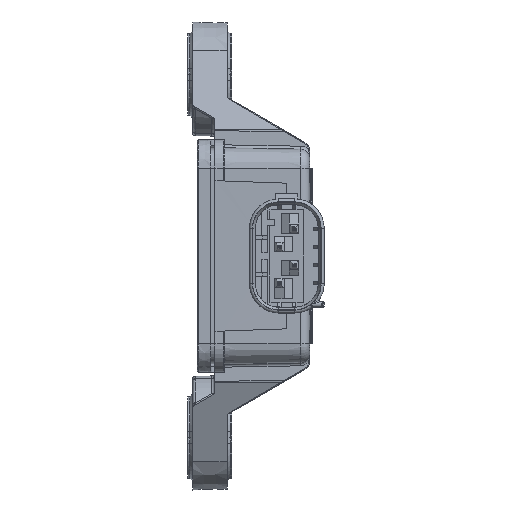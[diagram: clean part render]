
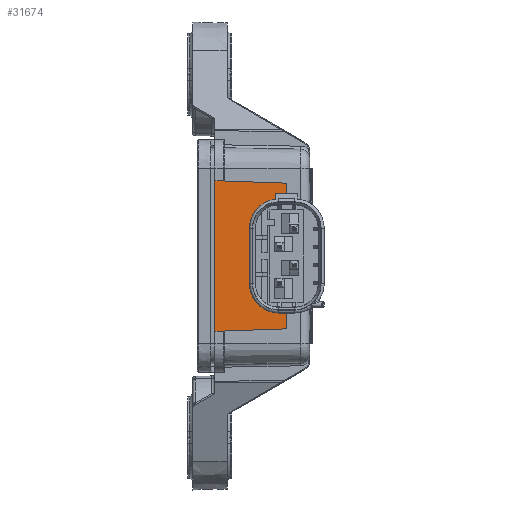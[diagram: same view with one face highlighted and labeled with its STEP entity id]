
A CAD part, left-side view. The second image highlights one B-rep face of the part: STEP entity #31674.
In plain terms, the highlighted planar face has unit normal (-1, 0, 0).
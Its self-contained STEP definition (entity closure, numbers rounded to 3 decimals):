
#692=DIRECTION('',(0.,0.,1.));
#693=VECTOR('',#692,25.759);
#694=CARTESIAN_POINT('',(-18.6,0.3,-12.88));
#695=LINE('',#694,#693);
#6580=DIRECTION('',(-0.002,0.999,0.035));
#6581=VECTOR('',#6580,10.804);
#6582=CARTESIAN_POINT('',(-18.6,-12.,12.45));
#6583=LINE('',#6582,#6581);
#6584=DIRECTION('',(0.,0.,1.));
#6585=VECTOR('',#6584,2.7);
#6586=CARTESIAN_POINT('',(-18.6,-12.,9.75));
#6587=LINE('',#6586,#6585);
#6588=DIRECTION('',(0.,0.,1.));
#6589=VECTOR('',#6588,2.7);
#6590=CARTESIAN_POINT('',(-18.6,-12.,-12.45));
#6591=LINE('',#6590,#6589);
#6592=DIRECTION('',(0.002,-0.999,0.035));
#6593=VECTOR('',#6592,10.804);
#6594=CARTESIAN_POINT('',(-18.619,-1.202,-12.827));
#6595=LINE('',#6594,#6593);
#6596=DIRECTION('',(-0.013,-0.999,0.035));
#6597=VECTOR('',#6596,1.503);
#6598=CARTESIAN_POINT('',(-18.6,0.3,-12.88));
#6599=LINE('',#6598,#6597);
#6600=DIRECTION('',(0.013,0.999,0.035));
#6601=VECTOR('',#6600,1.503);
#6602=CARTESIAN_POINT('',(-18.619,-1.202,12.827));
#6603=LINE('',#6602,#6601);
#15880=DIRECTION('',(0.,-1.,0.));
#15881=VECTOR('',#15880,1.375);
#15882=CARTESIAN_POINT('',(-18.6,-10.625,-9.75));
#15883=LINE('',#15882,#15881);
#15888=CARTESIAN_POINT('',(-18.6,-10.625,-4.75));
#15889=DIRECTION('',(1.,0.,0.));
#15890=DIRECTION('',(0.,0.,-1.));
#15891=AXIS2_PLACEMENT_3D('',#15888,#15889,#15890);
#15902=DIRECTION('',(0.,0.,1.));
#15903=VECTOR('',#15902,9.5);
#15904=CARTESIAN_POINT('',(-18.6,-5.625,-4.75));
#15905=LINE('',#15904,#15903);
#15914=CARTESIAN_POINT('',(-18.6,-10.625,4.75));
#15915=DIRECTION('',(1.,0.,0.));
#15916=DIRECTION('',(0.,1.,0.));
#15917=AXIS2_PLACEMENT_3D('',#15914,#15915,#15916);
#15969=DIRECTION('',(0.,-1.,0.));
#15970=VECTOR('',#15969,1.375);
#15971=CARTESIAN_POINT('',(-18.6,-10.625,9.75));
#15972=LINE('',#15971,#15970);
#22230=CARTESIAN_POINT('',(-18.6,0.3,-12.88));
#22231=CARTESIAN_POINT('',(-18.6,0.3,12.88));
#22232=VERTEX_POINT('',#22230);
#22233=VERTEX_POINT('',#22231);
#22242=CARTESIAN_POINT('',(-18.619,-1.202,12.827));
#22243=VERTEX_POINT('',#22242);
#22244=CARTESIAN_POINT('',(-18.619,-1.202,-12.827));
#22245=VERTEX_POINT('',#22244);
#24720=CARTESIAN_POINT('',(-18.6,-10.625,-9.75));
#24721=CARTESIAN_POINT('',(-18.6,-12.,-9.75));
#24722=VERTEX_POINT('',#24720);
#24723=VERTEX_POINT('',#24721);
#24724=CARTESIAN_POINT('',(-18.6,-5.625,-4.75));
#24725=VERTEX_POINT('',#24724);
#24726=CARTESIAN_POINT('',(-18.6,-5.625,4.75));
#24727=VERTEX_POINT('',#24726);
#24728=CARTESIAN_POINT('',(-18.6,-10.625,9.75));
#24729=VERTEX_POINT('',#24728);
#24730=CARTESIAN_POINT('',(-18.6,-12.,9.75));
#24731=VERTEX_POINT('',#24730);
#25111=CARTESIAN_POINT('',(-18.6,-12.,12.45));
#25112=VERTEX_POINT('',#25111);
#25113=CARTESIAN_POINT('',(-18.6,-12.,-12.45));
#25114=VERTEX_POINT('',#25113);
#31644=CARTESIAN_POINT('',(-18.6,0.,0.));
#31645=DIRECTION('',(-1.,0.,0.));
#31646=DIRECTION('',(0.,-1.,0.));
#31647=AXIS2_PLACEMENT_3D('',#31644,#31645,#31646);
#31648=PLANE('',#31647);
#31650=ORIENTED_EDGE('',*,*,#31649,.F.);
#31652=ORIENTED_EDGE('',*,*,#31651,.F.);
#31654=ORIENTED_EDGE('',*,*,#31653,.F.);
#31656=ORIENTED_EDGE('',*,*,#31655,.F.);
#31658=ORIENTED_EDGE('',*,*,#31657,.F.);
#31660=ORIENTED_EDGE('',*,*,#31659,.F.);
#31662=ORIENTED_EDGE('',*,*,#31661,.T.);
#31664=ORIENTED_EDGE('',*,*,#31663,.F.);
#31666=ORIENTED_EDGE('',*,*,#31665,.F.);
#31668=ORIENTED_EDGE('',*,*,#31667,.F.);
#31669=ORIENTED_EDGE('',*,*,#27062,.T.);
#31671=ORIENTED_EDGE('',*,*,#31670,.F.);
#31672=EDGE_LOOP('',(#31650,#31652,#31654,#31656,#31658,#31660,#31662,#31664,
#31666,#31668,#31669,#31671));
#31673=FACE_OUTER_BOUND('',#31672,.F.);
#15892=CIRCLE('',#15891,5.);
#15918=CIRCLE('',#15917,5.);
#27062=EDGE_CURVE('',#22232,#22233,#695,.T.);
#31649=EDGE_CURVE('',#25112,#22243,#6583,.T.);
#31651=EDGE_CURVE('',#24731,#25112,#6587,.T.);
#31653=EDGE_CURVE('',#24729,#24731,#15972,.T.);
#31655=EDGE_CURVE('',#24727,#24729,#15918,.T.);
#31657=EDGE_CURVE('',#24725,#24727,#15905,.T.);
#31659=EDGE_CURVE('',#24722,#24725,#15892,.T.);
#31661=EDGE_CURVE('',#24722,#24723,#15883,.T.);
#31663=EDGE_CURVE('',#25114,#24723,#6591,.T.);
#31665=EDGE_CURVE('',#22245,#25114,#6595,.T.);
#31667=EDGE_CURVE('',#22232,#22245,#6599,.T.);
#31670=EDGE_CURVE('',#22243,#22233,#6603,.T.);
#31674=ADVANCED_FACE('',(#31673),#31648,.T.);
